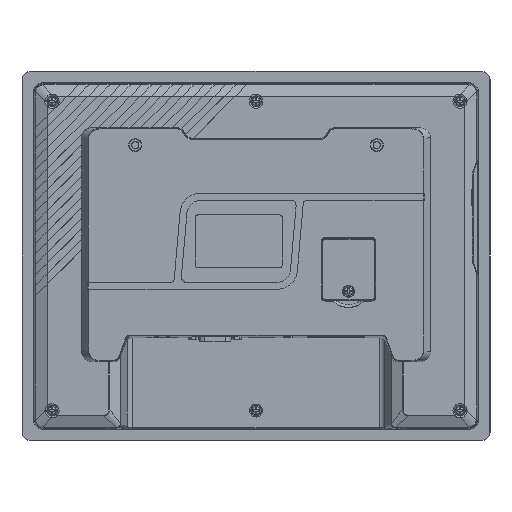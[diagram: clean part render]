
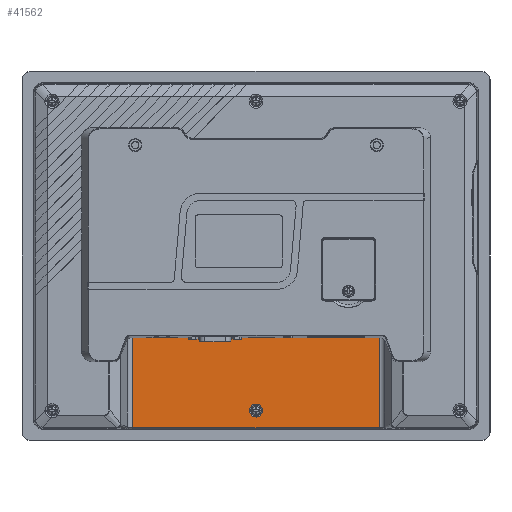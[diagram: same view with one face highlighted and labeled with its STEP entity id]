
A CAD part, front view. The second image highlights one B-rep face of the part: STEP entity #41562.
In plain terms, the highlighted planar face has unit normal (0, -1, 0).
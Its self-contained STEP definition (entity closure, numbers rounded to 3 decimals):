
#6474=DIRECTION('',(1.,0.,0.));
#6475=VECTOR('',#6474,142.568);
#6476=CARTESIAN_POINT('',(-71.284,-9.,
-99.503));
#6477=LINE('',#6476,#6475);
#8705=DIRECTION('',(-1.,0.,0.));
#8706=VECTOR('',#8705,142.568);
#8707=CARTESIAN_POINT('',(71.284,-9.,-47.25));
#8708=LINE('',#8707,#8706);
#8959=DIRECTION('',(0.,0.,1.));
#8960=VECTOR('',#8959,52.253);
#8961=CARTESIAN_POINT('',(71.284,-9.,
-99.503));
#8962=LINE('',#8961,#8960);
#8985=CARTESIAN_POINT('',(0.,-9.,-89.5));
#8986=DIRECTION('',(0.,-1.,0.));
#8987=DIRECTION('',(0.,0.,1.));
#8988=AXIS2_PLACEMENT_3D('',#8985,#8986,#8987);
#8990=CARTESIAN_POINT('',(0.,-9.,-89.5));
#8991=DIRECTION('',(0.,-1.,0.));
#8992=DIRECTION('',(-0.179,0.,0.984));
#8993=AXIS2_PLACEMENT_3D('',#8990,#8991,#8992);
#8995=CARTESIAN_POINT('',(0.,-9.,-89.5));
#8996=DIRECTION('',(0.,-1.,0.));
#8997=DIRECTION('',(0.,0.,-1.));
#8998=AXIS2_PLACEMENT_3D('',#8995,#8996,#8997);
#9000=CARTESIAN_POINT('',(0.,-9.,-89.5));
#9001=DIRECTION('',(0.,-1.,0.));
#9002=DIRECTION('',(0.179,0.,-0.984));
#9003=AXIS2_PLACEMENT_3D('',#9000,#9001,#9002);
#9032=DIRECTION('',(0.,0.,-1.));
#9033=VECTOR('',#9032,52.253);
#9034=CARTESIAN_POINT('',(-71.284,-9.,-47.25));
#9035=LINE('',#9034,#9033);
#23719=CARTESIAN_POINT('',(71.284,-9.,
-99.503));
#23720=VERTEX_POINT('',#23719);
#23721=CARTESIAN_POINT('',(-71.284,-9.,
-99.503));
#23722=VERTEX_POINT('',#23721);
#24111=CARTESIAN_POINT('',(71.284,-9.,-47.25));
#24112=VERTEX_POINT('',#24111);
#24114=CARTESIAN_POINT('',(-71.284,-9.,-47.25));
#24115=VERTEX_POINT('',#24114);
#24116=CARTESIAN_POINT('',(-0.67,-9.,-85.81));
#24117=CARTESIAN_POINT('',(0.,-9.,-93.25));
#24118=VERTEX_POINT('',#24116);
#24119=VERTEX_POINT('',#24117);
#24120=CARTESIAN_POINT('',(0.,-9.,-85.75));
#24121=VERTEX_POINT('',#24120);
#24122=CARTESIAN_POINT('',(0.67,-9.,-93.19));
#24123=VERTEX_POINT('',#24122);
#41540=CARTESIAN_POINT('',(-74.,-9.,-100.3));
#41541=DIRECTION('',(0.,1.,0.));
#41542=DIRECTION('',(1.,0.,0.));
#41543=AXIS2_PLACEMENT_3D('',#41540,#41541,#41542);
#41544=PLANE('',#41543);
#41545=ORIENTED_EDGE('',*,*,#37367,.F.);
#41547=ORIENTED_EDGE('',*,*,#41546,.F.);
#41548=ORIENTED_EDGE('',*,*,#41411,.F.);
#41549=ORIENTED_EDGE('',*,*,#41532,.F.);
#41550=EDGE_LOOP('',(#41545,#41547,#41548,#41549));
#41551=FACE_OUTER_BOUND('',#41550,.F.);
#41553=ORIENTED_EDGE('',*,*,#41552,.T.);
#41555=ORIENTED_EDGE('',*,*,#41554,.T.);
#41557=ORIENTED_EDGE('',*,*,#41556,.T.);
#41559=ORIENTED_EDGE('',*,*,#41558,.T.);
#41560=EDGE_LOOP('',(#41553,#41555,#41557,#41559));
#41561=FACE_BOUND('',#41560,.F.);
#41562=ADVANCED_FACE('',(#41551,#41561),#41544,.F.);
#8989=CIRCLE('',#8988,3.75);
#8994=CIRCLE('',#8993,3.75);
#8999=CIRCLE('',#8998,3.75);
#9004=CIRCLE('',#9003,3.75);
#37367=EDGE_CURVE('',#23722,#23720,#6477,.T.);
#41411=EDGE_CURVE('',#24112,#24115,#8708,.T.);
#41532=EDGE_CURVE('',#23720,#24112,#8962,.T.);
#41546=EDGE_CURVE('',#24115,#23722,#9035,.T.);
#41552=EDGE_CURVE('',#24121,#24118,#8989,.T.);
#41554=EDGE_CURVE('',#24118,#24119,#8994,.T.);
#41556=EDGE_CURVE('',#24119,#24123,#8999,.T.);
#41558=EDGE_CURVE('',#24123,#24121,#9004,.T.);
